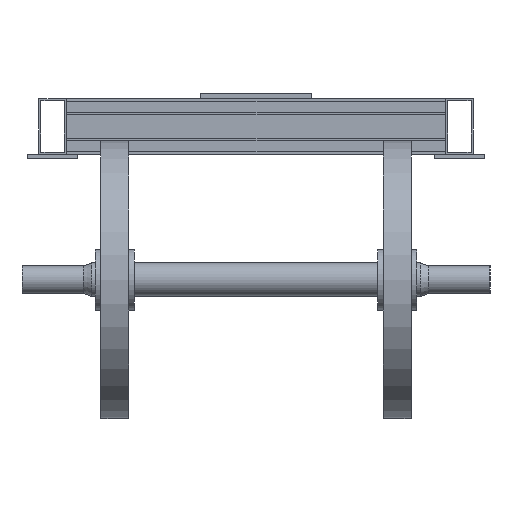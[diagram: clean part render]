
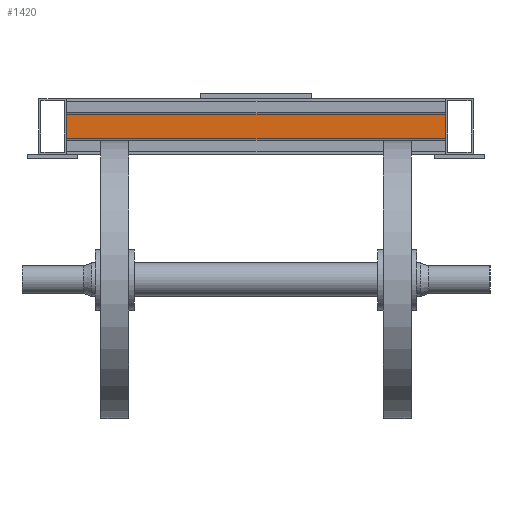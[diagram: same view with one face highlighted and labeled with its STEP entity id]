
A CAD part, left-side view. The second image highlights one B-rep face of the part: STEP entity #1420.
In plain terms, the highlighted planar face has unit normal (-1, 0, 0).
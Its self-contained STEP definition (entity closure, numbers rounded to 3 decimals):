
#1420 = ADVANCED_FACE('',(#1421),#1435,.F.);
#1421 = FACE_BOUND('',#1422,.F.);
#1422 = EDGE_LOOP('',(#1423,#1458,#1486,#1514));
#1423 = ORIENTED_EDGE('',*,*,#1424,.F.);
#1424 = EDGE_CURVE('',#1425,#1427,#1429,.T.);
#1425 = VERTEX_POINT('',#1426);
#1426 = CARTESIAN_POINT('',(-1000.,-680.,1000.));
#1427 = VERTEX_POINT('',#1428);
#1428 = CARTESIAN_POINT('',(-1000.,-680.,1100.));
#1429 = SURFACE_CURVE('',#1430,(#1434,#1446),.PCURVE_S1.);
#1430 = LINE('',#1431,#1432);
#1431 = CARTESIAN_POINT('',(-1000.,-680.,1000.));
#1432 = VECTOR('',#1433,1.);
#1433 = DIRECTION('',(0.,0.,1.));
#1434 = PCURVE('',#1435,#1440);
#1435 = PLANE('',#1436);
#1436 = AXIS2_PLACEMENT_3D('',#1437,#1438,#1439);
#1437 = CARTESIAN_POINT('',(-1000.,-680.,1000.));
#1438 = DIRECTION('',(1.,0.,0.));
#1439 = DIRECTION('',(0.,0.,1.));
#1440 = DEFINITIONAL_REPRESENTATION('',(#1441),#1445);
#1441 = LINE('',#1442,#1443);
#1442 = CARTESIAN_POINT('',(0.,0.));
#1443 = VECTOR('',#1444,1.);
#1444 = DIRECTION('',(1.,0.));
#1445 = ( GEOMETRIC_REPRESENTATION_CONTEXT(2) 
PARAMETRIC_REPRESENTATION_CONTEXT() REPRESENTATION_CONTEXT('2D SPACE',''
  ) );
#1446 = PCURVE('',#1447,#1452);
#1447 = PLANE('',#1448);
#1448 = AXIS2_PLACEMENT_3D('',#1449,#1450,#1451);
#1449 = CARTESIAN_POINT('',(-1000.,-680.,1000.));
#1450 = DIRECTION('',(0.,1.,0.));
#1451 = DIRECTION('',(0.,0.,1.));
#1452 = DEFINITIONAL_REPRESENTATION('',(#1453),#1457);
#1453 = LINE('',#1454,#1455);
#1454 = CARTESIAN_POINT('',(0.,0.));
#1455 = VECTOR('',#1456,1.);
#1456 = DIRECTION('',(1.,0.));
#1457 = ( GEOMETRIC_REPRESENTATION_CONTEXT(2) 
PARAMETRIC_REPRESENTATION_CONTEXT() REPRESENTATION_CONTEXT('2D SPACE',''
  ) );
#1458 = ORIENTED_EDGE('',*,*,#1459,.T.);
#1459 = EDGE_CURVE('',#1425,#1460,#1462,.T.);
#1460 = VERTEX_POINT('',#1461);
#1461 = CARTESIAN_POINT('',(-1000.,680.,1000.));
#1462 = SURFACE_CURVE('',#1463,(#1467,#1474),.PCURVE_S1.);
#1463 = LINE('',#1464,#1465);
#1464 = CARTESIAN_POINT('',(-1000.,-680.,1000.));
#1465 = VECTOR('',#1466,1.);
#1466 = DIRECTION('',(0.,1.,0.));
#1467 = PCURVE('',#1435,#1468);
#1468 = DEFINITIONAL_REPRESENTATION('',(#1469),#1473);
#1469 = LINE('',#1470,#1471);
#1470 = CARTESIAN_POINT('',(0.,0.));
#1471 = VECTOR('',#1472,1.);
#1472 = DIRECTION('',(0.,-1.));
#1473 = ( GEOMETRIC_REPRESENTATION_CONTEXT(2) 
PARAMETRIC_REPRESENTATION_CONTEXT() REPRESENTATION_CONTEXT('2D SPACE',''
  ) );
#1474 = PCURVE('',#1475,#1480);
#1475 = PLANE('',#1476);
#1476 = AXIS2_PLACEMENT_3D('',#1477,#1478,#1479);
#1477 = CARTESIAN_POINT('',(-1000.,-680.,1000.));
#1478 = DIRECTION('',(0.,0.,1.));
#1479 = DIRECTION('',(1.,0.,0.));
#1480 = DEFINITIONAL_REPRESENTATION('',(#1481),#1485);
#1481 = LINE('',#1482,#1483);
#1482 = CARTESIAN_POINT('',(0.,0.));
#1483 = VECTOR('',#1484,1.);
#1484 = DIRECTION('',(0.,1.));
#1485 = ( GEOMETRIC_REPRESENTATION_CONTEXT(2) 
PARAMETRIC_REPRESENTATION_CONTEXT() REPRESENTATION_CONTEXT('2D SPACE',''
  ) );
#1486 = ORIENTED_EDGE('',*,*,#1487,.T.);
#1487 = EDGE_CURVE('',#1460,#1488,#1490,.T.);
#1488 = VERTEX_POINT('',#1489);
#1489 = CARTESIAN_POINT('',(-1000.,680.,1100.));
#1490 = SURFACE_CURVE('',#1491,(#1495,#1502),.PCURVE_S1.);
#1491 = LINE('',#1492,#1493);
#1492 = CARTESIAN_POINT('',(-1000.,680.,1000.));
#1493 = VECTOR('',#1494,1.);
#1494 = DIRECTION('',(0.,0.,1.));
#1495 = PCURVE('',#1435,#1496);
#1496 = DEFINITIONAL_REPRESENTATION('',(#1497),#1501);
#1497 = LINE('',#1498,#1499);
#1498 = CARTESIAN_POINT('',(0.,-1360.));
#1499 = VECTOR('',#1500,1.);
#1500 = DIRECTION('',(1.,0.));
#1501 = ( GEOMETRIC_REPRESENTATION_CONTEXT(2) 
PARAMETRIC_REPRESENTATION_CONTEXT() REPRESENTATION_CONTEXT('2D SPACE',''
  ) );
#1502 = PCURVE('',#1503,#1508);
#1503 = PLANE('',#1504);
#1504 = AXIS2_PLACEMENT_3D('',#1505,#1506,#1507);
#1505 = CARTESIAN_POINT('',(-1000.,680.,1000.));
#1506 = DIRECTION('',(0.,1.,0.));
#1507 = DIRECTION('',(0.,0.,1.));
#1508 = DEFINITIONAL_REPRESENTATION('',(#1509),#1513);
#1509 = LINE('',#1510,#1511);
#1510 = CARTESIAN_POINT('',(0.,0.));
#1511 = VECTOR('',#1512,1.);
#1512 = DIRECTION('',(1.,0.));
#1513 = ( GEOMETRIC_REPRESENTATION_CONTEXT(2) 
PARAMETRIC_REPRESENTATION_CONTEXT() REPRESENTATION_CONTEXT('2D SPACE',''
  ) );
#1514 = ORIENTED_EDGE('',*,*,#1515,.F.);
#1515 = EDGE_CURVE('',#1427,#1488,#1516,.T.);
#1516 = SURFACE_CURVE('',#1517,(#1521,#1528),.PCURVE_S1.);
#1517 = LINE('',#1518,#1519);
#1518 = CARTESIAN_POINT('',(-1000.,-680.,1100.));
#1519 = VECTOR('',#1520,1.);
#1520 = DIRECTION('',(0.,1.,0.));
#1521 = PCURVE('',#1435,#1522);
#1522 = DEFINITIONAL_REPRESENTATION('',(#1523),#1527);
#1523 = LINE('',#1524,#1525);
#1524 = CARTESIAN_POINT('',(100.,0.));
#1525 = VECTOR('',#1526,1.);
#1526 = DIRECTION('',(0.,-1.));
#1527 = ( GEOMETRIC_REPRESENTATION_CONTEXT(2) 
PARAMETRIC_REPRESENTATION_CONTEXT() REPRESENTATION_CONTEXT('2D SPACE',''
  ) );
#1528 = PCURVE('',#1529,#1534);
#1529 = PLANE('',#1530);
#1530 = AXIS2_PLACEMENT_3D('',#1531,#1532,#1533);
#1531 = CARTESIAN_POINT('',(-1000.,-680.,1100.));
#1532 = DIRECTION('',(0.,0.,1.));
#1533 = DIRECTION('',(1.,0.,0.));
#1534 = DEFINITIONAL_REPRESENTATION('',(#1535),#1539);
#1535 = LINE('',#1536,#1537);
#1536 = CARTESIAN_POINT('',(0.,0.));
#1537 = VECTOR('',#1538,1.);
#1538 = DIRECTION('',(0.,1.));
#1539 = ( GEOMETRIC_REPRESENTATION_CONTEXT(2) 
PARAMETRIC_REPRESENTATION_CONTEXT() REPRESENTATION_CONTEXT('2D SPACE',''
  ) );
